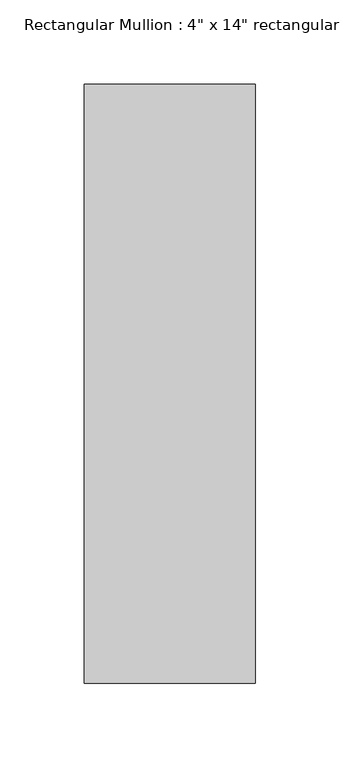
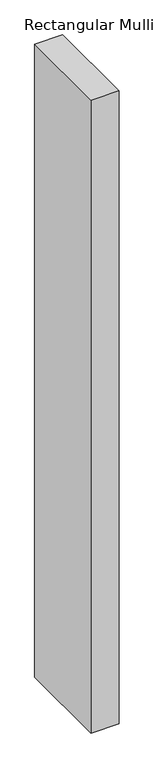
"""IFC4 building model written with IfcOpenShell, lengths in millimetres: member geometry."""

import ifcopenshell
import ifcopenshell.guid

model = None  # the IFC model being written
_history = None  # IfcOwnerHistory: only IFC2X3 demands one
_inside = {}  # id of a spatial element -> (the spatial element, [elements in it])
_under = {}  # id of a project, library or spatial element -> (it, [spatial elements below it])
_declared = {}  # id of a project -> (the project, [libraries it declares])
_typed = {}  # id of a type object -> (the type object, [elements of that type])
_made_of = {}  # id of a material, layer set ... -> (it, [elements and type objects made of it])


def new_model(schema):
    """Start an empty IFC model of exactly this schema.

    Asked for "IFC4X3", IfcOpenShell would pick the latest addendum, in which some entities
    have other attributes; the version numbers below select the first issue.
    IFC2X3 requires an IfcOwnerHistory on every rooted entity: one is made here for all.
    """
    global model, _history
    if schema == "IFC4X3":
        model = ifcopenshell.file(schema_version=(4, 3, 0, 0))
    else:
        model = ifcopenshell.file(schema=schema)
    _inside.clear()
    _under.clear()
    _declared.clear()
    _typed.clear()
    _made_of.clear()
    _history = None
    if model.schema == "IFC2X3":
        org = make("IfcOrganization", Name="unknown")
        user = make(
            "IfcPersonAndOrganization",
            ThePerson=make("IfcPerson", FamilyName="unknown"),
            TheOrganization=org,
        )
        app = make(
            "IfcApplication",
            ApplicationDeveloper=org,
            Version="unknown",
            ApplicationFullName="unknown",
            ApplicationIdentifier="unknown",
        )
        _history = make(
            "IfcOwnerHistory",
            OwningUser=user,
            OwningApplication=app,
            ChangeAction="ADDED",
            CreationDate=0,
        )
    return model


def make(cls, **values):
    """One entity of the class cls with the attributes given. An attribute that is None is left unset."""
    return model.create_entity(
        cls, **{name: value for name, value in values.items() if value is not None}
    )


def rooted(cls, **values):
    """An entity with a GlobalId (a new one), such as an element, a storey or a relation."""
    return make(cls, GlobalId=ifcopenshell.guid.new(), OwnerHistory=_history, **values)


def si_unit(unit_type, name, prefix=None):
    """IfcSIUnit, for example si_unit("LENGTHUNIT", "METRE", prefix="MILLI")."""
    return make("IfcSIUnit", UnitType=unit_type, Prefix=prefix, Name=name)


def assignment(units):
    """IfcUnitAssignment: the units of a project."""
    return None if units is None else make("IfcUnitAssignment", Units=units)


def point(xyz):
    """IfcCartesianPoint."""
    return None if xyz is None else make("IfcCartesianPoint", Coordinates=xyz)


def direction(xyz):
    """IfcDirection."""
    return None if xyz is None else make("IfcDirection", DirectionRatios=xyz)


def frame(location, z_axis=None, x_axis=None):
    """IfcAxis2Placement3D, a coordinate frame: its origin and axes. An axis left out is left unset."""
    return make(
        "IfcAxis2Placement3D",
        Location=point(location),
        Axis=direction(z_axis),
        RefDirection=direction(x_axis),
    )


def origin():
    """The frame at (0, 0, 0) with its axes left unset."""
    return frame((0.0, 0.0, 0.0))


def place(relative_to, where):
    """IfcLocalPlacement: puts the frame where relative to a parent placement (None: the world)."""
    return make(
        "IfcLocalPlacement", PlacementRelTo=relative_to, RelativePlacement=where
    )


def context(
    kind, dimensions, precision=None, world=None, true_north=None, identifier=None
):
    """IfcGeometricRepresentationContext, for example the 3D "Model" context."""
    return make(
        "IfcGeometricRepresentationContext",
        ContextIdentifier=identifier,
        ContextType=kind,
        CoordinateSpaceDimension=dimensions,
        Precision=precision,
        WorldCoordinateSystem=world,
        TrueNorth=true_north,
    )


def project(units=None, contexts=None):
    """IfcProject with its units and contexts."""
    return rooted(
        "IfcProject",
        Name="project",
        RepresentationContexts=contexts,
        UnitsInContext=assignment(units),
    )


def spatial(cls, under=None, at=None, **own):
    """A site, building, storey or space (cls), placed at a placement, below another one or the project."""
    s = rooted(cls, ObjectPlacement=at, **own)
    if under is not None:
        _under.setdefault(under.id(), (under, []))[1].append(s)
    return s


def polyline(points):
    """IfcPolyline through the points."""
    return make("IfcPolyline", Points=[point(p) for p in points])


def outline(outer, holes=None, kind="AREA"):
    """IfcArbitraryClosedProfileDef: a profile drawn as a closed curve; with holes, ...WithVoids."""
    if holes is None:
        return make("IfcArbitraryClosedProfileDef", ProfileType=kind, OuterCurve=outer)
    return make(
        "IfcArbitraryProfileDefWithVoids",
        ProfileType=kind,
        OuterCurve=outer,
        InnerCurves=holes,
    )


def extrude(swept, where, along, depth):
    """IfcExtrudedAreaSolid: the profile swept, set in the frame where, extruded along a direction by depth."""
    return make(
        "IfcExtrudedAreaSolid",
        SweptArea=swept,
        Position=where,
        ExtrudedDirection=direction(along),
        Depth=depth,
    )


def shape(context_of_items, identifier, shape_type, items):
    """IfcShapeRepresentation: the items that make up one representation, for example the "Body"."""
    return make(
        "IfcShapeRepresentation",
        ContextOfItems=context_of_items,
        RepresentationIdentifier=identifier,
        RepresentationType=shape_type,
        Items=items,
    )


def source(mapping_origin, context_of_items, identifier, shape_type, items):
    """IfcRepresentationMap: a shape defined once, which mapped items show again and again."""
    return make(
        "IfcRepresentationMap",
        MappingOrigin=mapping_origin,
        MappedRepresentation=shape(context_of_items, identifier, shape_type, items),
    )


def transform(
    local_origin,
    x_axis=None,
    y_axis=None,
    z_axis=None,
    scale=None,
    scale2=None,
    scale3=None,
    uniform=True,
):
    """IfcCartesianTransformationOperator3D, or its non-uniform kind. x_axis, y_axis, z_axis: its Axis1, 2, 3."""
    if uniform:
        return make(
            "IfcCartesianTransformationOperator3D",
            Axis1=direction(x_axis),
            Axis2=direction(y_axis),
            LocalOrigin=point(local_origin),
            Scale=scale,
            Axis3=direction(z_axis),
        )
    return make(
        "IfcCartesianTransformationOperator3DnonUniform",
        Axis1=direction(x_axis),
        Axis2=direction(y_axis),
        LocalOrigin=point(local_origin),
        Scale=scale,
        Axis3=direction(z_axis),
        Scale2=scale2,
        Scale3=scale3,
    )


def mapped(mapping_source, mapping_target):
    """IfcMappedItem: shows the shape of a source again, moved by a transform."""
    return make(
        "IfcMappedItem", MappingSource=mapping_source, MappingTarget=mapping_target
    )


def made_of(thing, what):
    """Note that an element or type object is made of a material, layer set ...; save() writes the relation."""
    if what is not None:
        _made_of.setdefault(what.id(), (what, []))[1].append(thing)
    return thing


def element(
    cls,
    number,
    at=None,
    inside=None,
    cuts=None,
    type_object=None,
    material=None,
    context=None,
    identifier="Body",
    shape_type=None,
    held_by="IfcProductDefinitionShape",
    body=None,
    shapes=None,
    **own,
):
    """One element of the class cls, such as IfcWall. Its Tag is "e" and its number.

    at: its placement. inside: the storey or other place that contains it. cuts: it is an
    opening in that element (IfcRelVoidsElement). A single representation is given by context,
    identifier, shape_type and body (its items); several are given by shapes. held_by: the class
    of the entity that holds the representations. save() writes the other relations.
    """
    e = rooted(cls, Tag="e%d" % number, ObjectPlacement=at, **own)
    if body is not None:
        shapes = [shape(context, identifier, shape_type, body)]
    if shapes is not None:
        e.Representation = make(held_by, Representations=shapes)
    if inside is not None:
        _inside.setdefault(inside.id(), (inside, []))[1].append(e)
    if cuts is not None:
        rooted(
            "IfcRelVoidsElement", RelatingBuildingElement=cuts, RelatedOpeningElement=e
        )
    if type_object is not None:
        _typed.setdefault(type_object.id(), (type_object, []))[1].append(e)
    return made_of(e, material)


def aggregate(whole, parts):
    """IfcRelAggregates: a whole, such as a stair, and the parts it consists of."""
    return rooted("IfcRelAggregates", RelatingObject=whole, RelatedObjects=parts)


def save(model, path):
    """Write the relations noted so far, then the file.

    IfcRelAggregates (storeys below a building ...), IfcRelContainedInSpatialStructure (elements
    in a storey), IfcRelDefinesByType, IfcRelAssociatesMaterial and IfcRelDeclares: one each for
    every whole, place, type object, material and project.
    """
    for whole, parts in _under.values():
        aggregate(whole, parts)
    for where, things in _inside.values():
        rooted(
            "IfcRelContainedInSpatialStructure",
            RelatedElements=things,
            RelatingStructure=where,
        )
    for kind, things in _typed.values():
        rooted("IfcRelDefinesByType", RelatedObjects=things, RelatingType=kind)
    for what, things in _made_of.values():
        rooted("IfcRelAssociatesMaterial", RelatedObjects=things, RelatingMaterial=what)
    for by, libraries in _declared.values():
        rooted("IfcRelDeclares", RelatingContext=by, RelatedDefinitions=libraries)
    model.write(path)


def member_f0dba6a9(model_context):
    return source(origin(), model_context, "Body", "SweptSolid", [
        extrude(outline(polyline([(50.8, 12.7), (50.8, -342.9), (-50.8, -342.9), (-50.8, 12.7), (50.8, 12.7)])), frame((0.0, 0.0, -2438.4), z_axis=(0.0, 0.0, 1.0), x_axis=(1.0, 0.0, 0.0)), (0.0, 0.0, 1.0), 2438.4),
    ])


if __name__ == "__main__":
    model = new_model("IFC4")
    model_context = context("Model", 3, world=origin())
    ifc_project = project(units=[si_unit("LENGTHUNIT", "METRE", prefix="MILLI")], contexts=[model_context])
    site = spatial("IfcSite", under=ifc_project)
    building = spatial("IfcBuilding", under=site)
    placement = place(None, origin())
    member_shape = member_f0dba6a9(model_context)
    element("IfcMember", 1, ObjectType="Rectangular Mullion : 4\" x 14\" rectangular", at=placement, inside=building, context=model_context, shape_type="MappedRepresentation", body=[
        mapped(member_shape, transform((0.0, 0.0, 0.0), x_axis=(1.0, 0.0, 0.0), y_axis=(0.0, 1.0, 0.0), z_axis=(0.0, 0.0, 1.0))),
    ])
    save(model, "model.ifc")
